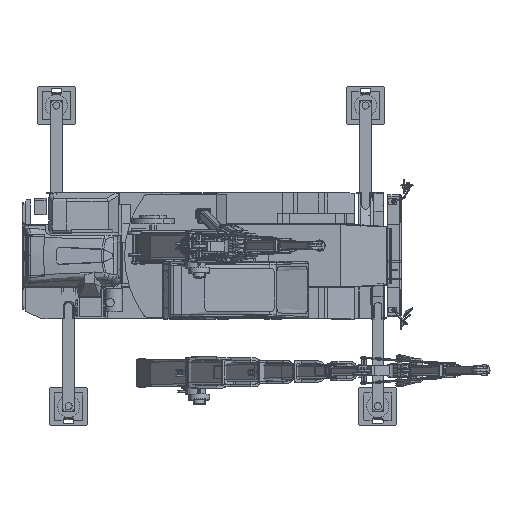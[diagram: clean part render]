
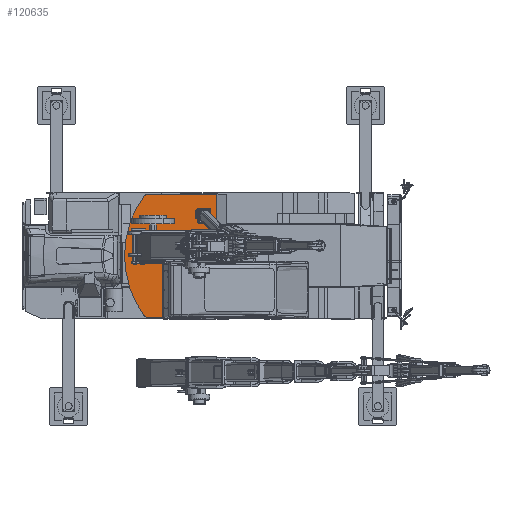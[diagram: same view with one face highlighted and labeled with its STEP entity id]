
A CAD part, top view. The second image highlights one B-rep face of the part: STEP entity #120635.
In plain terms, the highlighted planar face has unit normal (0, 0, 1).
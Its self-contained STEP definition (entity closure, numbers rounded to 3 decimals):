
#119117=CARTESIAN_POINT('Vertex',(-1237.295,970.,859.6)) ;
#119120=CARTESIAN_POINT('Line Origine',(-688.648,970.,859.6)) ;
#119124=CARTESIAN_POINT('Vertex',(-140.,970.,859.6)) ;
#120318=CARTESIAN_POINT('Line Origine',(-782.431,395.,859.6)) ;
#120322=CARTESIAN_POINT('Vertex',(-1424.862,395.,859.6)) ;
#120324=CARTESIAN_POINT('Vertex',(-140.,395.,859.6)) ;
#120457=CARTESIAN_POINT('Line Origine',(-1424.862,140.,859.6)) ;
#120461=CARTESIAN_POINT('Vertex',(-1424.862,-115.,859.6)) ;
#120481=CARTESIAN_POINT('Line Origine',(-1209.931,-115.,859.6)) ;
#120485=CARTESIAN_POINT('Vertex',(-995.,-115.,859.6)) ;
#120505=CARTESIAN_POINT('Line Origine',(-995.,-542.5,859.6)) ;
#120509=CARTESIAN_POINT('Vertex',(-995.,-970.,859.6)) ;
#120529=CARTESIAN_POINT('Line Origine',(-1116.148,-970.,859.6)) ;
#120533=CARTESIAN_POINT('Vertex',(-1237.295,-970.,859.6)) ;
#120553=CARTESIAN_POINT('Axis2P3D Location',(-1237.295,-900.,859.6)) ;
#120557=CARTESIAN_POINT('Vertex',(-1293.904,-941.176,859.6)) ;
#120577=CARTESIAN_POINT('Axis2P3D Location',(0.,0.,859.6)) ;
#120581=CARTESIAN_POINT('Vertex',(-1293.904,941.176,859.6)) ;
#120601=CARTESIAN_POINT('Axis2P3D Location',(-1237.295,900.,859.6)) ;
#120613=CARTESIAN_POINT('Axis2P3D Location',(0.,0.,859.6)) ;
#120618=CARTESIAN_POINT('Line Origine',(-140.,682.5,859.6)) ;
#119121=DIRECTION('Vector Direction',(1.,0.,0.)) ;
#120319=DIRECTION('Vector Direction',(-1.,0.,0.)) ;
#120458=DIRECTION('Vector Direction',(0.,1.,0.)) ;
#120482=DIRECTION('Vector Direction',(1.,0.,0.)) ;
#120506=DIRECTION('Vector Direction',(0.,-1.,0.)) ;
#120530=DIRECTION('Vector Direction',(-1.,0.,0.)) ;
#120554=DIRECTION('Axis2P3D Direction',(0.,0.,1.)) ;
#120578=DIRECTION('Axis2P3D Direction',(0.,0.,1.)) ;
#120602=DIRECTION('Axis2P3D Direction',(0.,0.,1.)) ;
#120614=DIRECTION('Axis2P3D Direction',(0.,0.,1.)) ;
#120615=DIRECTION('Axis2P3D XDirection',(1.,0.,0.)) ;
#120619=DIRECTION('Vector Direction',(0.,-1.,0.)) ;
#120555=AXIS2_PLACEMENT_3D('Circle Axis2P3D',#120553,#120554,$) ;
#120579=AXIS2_PLACEMENT_3D('Circle Axis2P3D',#120577,#120578,$) ;
#120603=AXIS2_PLACEMENT_3D('Circle Axis2P3D',#120601,#120602,$) ;
#120616=AXIS2_PLACEMENT_3D('Plane Axis2P3D',#120613,#120614,#120615) ;
#120624=ORIENTED_EDGE('',*,*,#119126,.T.) ;
#120625=ORIENTED_EDGE('',*,*,#120605,.T.) ;
#120626=ORIENTED_EDGE('',*,*,#120583,.T.) ;
#120627=ORIENTED_EDGE('',*,*,#120559,.T.) ;
#120628=ORIENTED_EDGE('',*,*,#120535,.T.) ;
#120629=ORIENTED_EDGE('',*,*,#120511,.T.) ;
#120630=ORIENTED_EDGE('',*,*,#120487,.T.) ;
#120631=ORIENTED_EDGE('',*,*,#120463,.T.) ;
#120632=ORIENTED_EDGE('',*,*,#120326,.T.) ;
#120633=ORIENTED_EDGE('',*,*,#120622,.F.) ;
#119122=VECTOR('Line Direction',#119121,1.) ;
#120320=VECTOR('Line Direction',#120319,1.) ;
#120459=VECTOR('Line Direction',#120458,1.) ;
#120483=VECTOR('Line Direction',#120482,1.) ;
#120507=VECTOR('Line Direction',#120506,1.) ;
#120531=VECTOR('Line Direction',#120530,1.) ;
#120620=VECTOR('Line Direction',#120619,1.) ;
#120635=ADVANCED_FACE('\X2\FF8AFF9FFF70FF82\X0\ \X2\FF8EFF9EFF83FF9EFF68FF70\X0\',(#120634),#120617,.T.) ;
#120556=CIRCLE('generated circle',#120555,70.) ;
#120580=CIRCLE('generated circle',#120579,1600.) ;
#120604=CIRCLE('generated circle',#120603,70.) ;
#119126=EDGE_CURVE('',#119125,#119118,#119123,.F.) ;
#120326=EDGE_CURVE('',#120323,#120325,#120321,.F.) ;
#120463=EDGE_CURVE('',#120462,#120323,#120460,.T.) ;
#120487=EDGE_CURVE('',#120486,#120462,#120484,.F.) ;
#120511=EDGE_CURVE('',#120510,#120486,#120508,.F.) ;
#120535=EDGE_CURVE('',#120534,#120510,#120532,.F.) ;
#120559=EDGE_CURVE('',#120558,#120534,#120556,.T.) ;
#120583=EDGE_CURVE('',#120582,#120558,#120580,.T.) ;
#120605=EDGE_CURVE('',#119118,#120582,#120604,.T.) ;
#120622=EDGE_CURVE('',#119125,#120325,#120621,.T.) ;
#120623=EDGE_LOOP('',(#120624,#120625,#120626,#120627,#120628,#120629,#120630,#120631,#120632,#120633)) ;
#120634=FACE_OUTER_BOUND('',#120623,.T.) ;
#119123=LINE('Line',#119120,#119122) ;
#120321=LINE('Line',#120318,#120320) ;
#120460=LINE('Line',#120457,#120459) ;
#120484=LINE('Line',#120481,#120483) ;
#120508=LINE('Line',#120505,#120507) ;
#120532=LINE('Line',#120529,#120531) ;
#120621=LINE('Line',#120618,#120620) ;
#120617=PLANE('',#120616) ;
#119118=VERTEX_POINT('',#119117) ;
#119125=VERTEX_POINT('',#119124) ;
#120323=VERTEX_POINT('',#120322) ;
#120325=VERTEX_POINT('',#120324) ;
#120462=VERTEX_POINT('',#120461) ;
#120486=VERTEX_POINT('',#120485) ;
#120510=VERTEX_POINT('',#120509) ;
#120534=VERTEX_POINT('',#120533) ;
#120558=VERTEX_POINT('',#120557) ;
#120582=VERTEX_POINT('',#120581) ;
